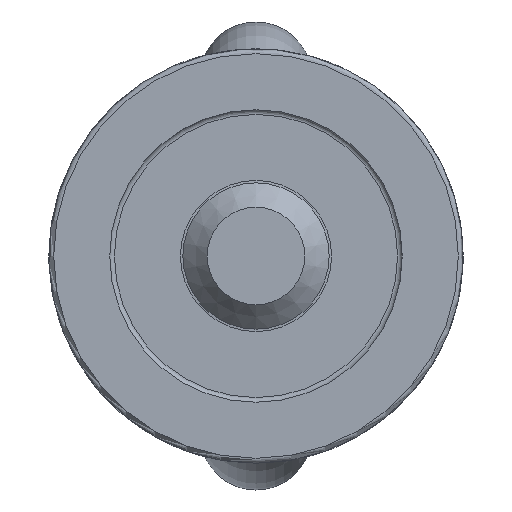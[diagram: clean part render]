
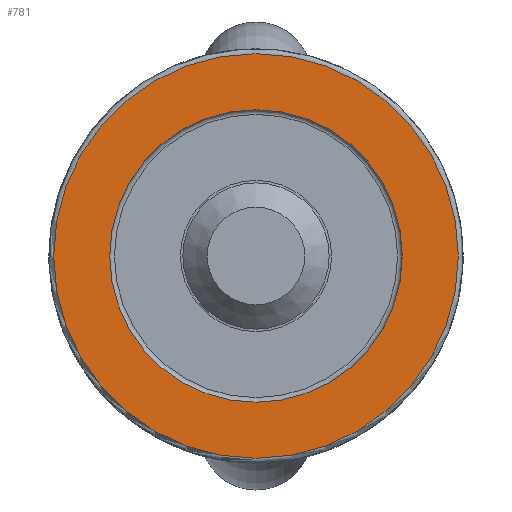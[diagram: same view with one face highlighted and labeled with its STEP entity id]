
A CAD part, front view. The second image highlights one B-rep face of the part: STEP entity #781.
In plain terms, the highlighted planar face has unit normal (0, -1, 0).
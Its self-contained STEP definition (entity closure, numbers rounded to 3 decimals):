
#733=FACE_BOUND('',#2551,.T.);
#734=FACE_BOUND('',#2552,.T.);
#781=ADVANCED_FACE('',(#733,#734),#1563,.T.);
#1563=PLANE('',#14119);
#2551=EDGE_LOOP('',(#4705));
#2552=EDGE_LOOP('',(#4706));
#4705=ORIENTED_EDGE('',*,*,#9631,.T.);
#4706=ORIENTED_EDGE('',*,*,#9632,.T.);
#8487=VERTEX_POINT('',#23219);
#8488=VERTEX_POINT('',#23221);
#9631=EDGE_CURVE('',#8487,#8487,#11439,.T.);
#9632=EDGE_CURVE('',#8488,#8488,#11440,.T.);
#11439=CIRCLE('',#14117,30.);
#11440=CIRCLE('',#14118,41.5);
#14117=AXIS2_PLACEMENT_3D('',#23218,#15344,#15345);
#14118=AXIS2_PLACEMENT_3D('',#23220,#15346,#15347);
#14119=AXIS2_PLACEMENT_3D('',#23222,#15348,#15349);
#15344=DIRECTION('',(0.,1.,0.));
#15345=DIRECTION('',(0.,0.,-1.));
#15346=DIRECTION('',(0.,-1.,0.));
#15347=DIRECTION('',(0.,0.,-1.));
#15348=DIRECTION('',(0.,-1.,0.));
#15349=DIRECTION('',(0.,0.,-1.));
#23218=CARTESIAN_POINT('',(0.,-21.,0.));
#23219=CARTESIAN_POINT('',(0.,-21.,-30.));
#23220=CARTESIAN_POINT('',(0.,-21.,0.));
#23221=CARTESIAN_POINT('',(0.,-21.,-41.5));
#23222=CARTESIAN_POINT('',(-42.5,-21.,0.));
